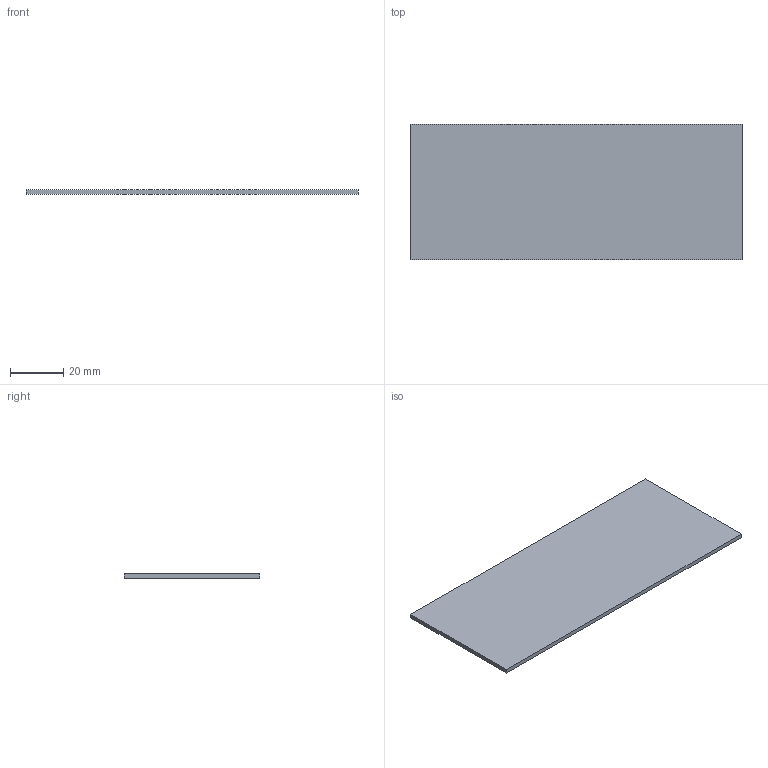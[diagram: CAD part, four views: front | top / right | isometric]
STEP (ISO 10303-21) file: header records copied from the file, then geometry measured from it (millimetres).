
FILE_DESCRIPTION(('Open CASCADE Model'),'2;1');
FILE_NAME('Open CASCADE Shape Model','2026-09-29T12:48:02',('Author'),( 'Open CASCADE'),'Open CASCADE STEP processor 7.9','Open CASCADE 7.9' ,'Unknown');
FILE_SCHEMA(('AUTOMOTIVE_DESIGN { 1 0 10303 214 1 1 1 1 }'));
Length unit declared in the file: millimetre
Products named in the file (1): Open CASCADE STEP translator 7.9 10
Bounding box: 125 x 50.9 x 1.6 mm (x, y, z)
Volume: 10180 mm3; surface area: 13287.9 mm2
Topology: 1 solids, 1 shells, 6 faces, 12 edges, 8 vertices
Faces by surface type: plane 6
Entity records: 322 total; most frequent: CARTESIAN_POINT 51, DIRECTION 50, LINE 36, VECTOR 36, ORIENTED_EDGE 24, PCURVE 24, DEFINITIONAL_REPRESENTATION 24, EDGE_CURVE 12
